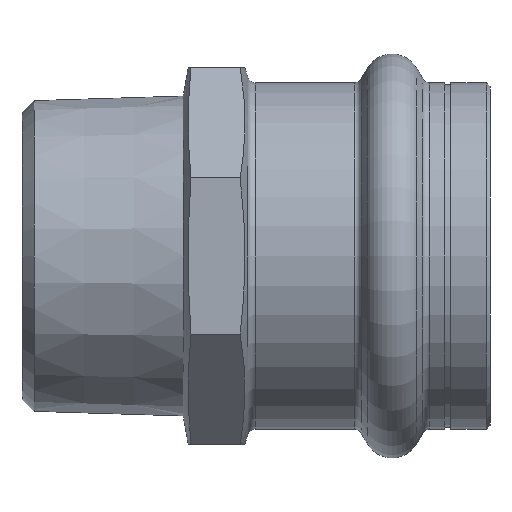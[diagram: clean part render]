
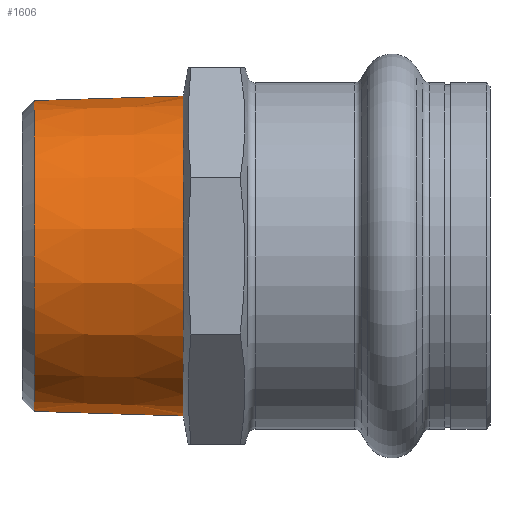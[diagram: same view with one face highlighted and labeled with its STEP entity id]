
A CAD part, left-side view. The second image highlights one B-rep face of the part: STEP entity #1606.
In plain terms, the highlighted conical face has half-angle 1.78 degrees and reference radius 21.225 mm.
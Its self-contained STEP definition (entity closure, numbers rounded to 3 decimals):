
#57 = CARTESIAN_POINT ( 'NONE',  ( 0., 40.7, 21.225 ) ) ;
#128 = VERTEX_POINT ( 'NONE', #275 ) ;
#185 = VERTEX_POINT ( 'NONE', #1535 ) ;
#247 = DIRECTION ( 'NONE',  ( 0., 0., -1. ) ) ;
#259 = DIRECTION ( 'NONE',  ( 0., -1., 0. ) ) ;
#267 = CARTESIAN_POINT ( 'NONE',  ( 0., 40.7, 0. ) ) ;
#275 = CARTESIAN_POINT ( 'NONE',  ( 0., 40.7, -21.225 ) ) ;
#331 = CIRCLE ( 'NONE', #1089, 21.225 ) ;
#354 = CONICAL_SURFACE ( 'NONE', #1248, 21.225, 0.031 ) ;
#355 = VECTOR ( 'NONE', #1424, 1000. ) ;
#474 = EDGE_CURVE ( 'NONE', #1244, #128, #534, .T. ) ;
#515 = EDGE_CURVE ( 'NONE', #1490, #1244, #642, .T. ) ;
#520 = DIRECTION ( 'NONE',  ( 0., -1., 0. ) ) ;
#534 = LINE ( 'NONE', #1027, #685 ) ;
#642 = CIRCLE ( 'NONE', #1007, 20.61 ) ;
#685 = VECTOR ( 'NONE', #1064, 1000. ) ;
#755 = LINE ( 'NONE', #57, #355 ) ;
#815 = ORIENTED_EDGE ( 'NONE', *, *, #515, .T. ) ;
#948 = EDGE_LOOP ( 'NONE', ( #1366, #815, #968, #1317 ) ) ;
#968 = ORIENTED_EDGE ( 'NONE', *, *, #474, .T. ) ;
#1007 = AXIS2_PLACEMENT_3D ( 'NONE', #1158, #1276, #1082 ) ;
#1027 = CARTESIAN_POINT ( 'NONE',  ( 0., 40.7, -21.225 ) ) ;
#1040 = EDGE_CURVE ( 'NONE', #1490, #185, #755, .T. ) ;
#1064 = DIRECTION ( 'NONE',  ( 0., -1., -0.031 ) ) ;
#1082 = DIRECTION ( 'NONE',  ( 0., 0., -1. ) ) ;
#1089 = AXIS2_PLACEMENT_3D ( 'NONE', #267, #259, #247 ) ;
#1106 = DIRECTION ( 'NONE',  ( 0., 0., -1. ) ) ;
#1158 = CARTESIAN_POINT ( 'NONE',  ( 0., 60.49, 0. ) ) ;
#1186 = FACE_OUTER_BOUND ( 'NONE', #948, .T. ) ;
#1244 = VERTEX_POINT ( 'NONE', #1338 ) ;
#1248 = AXIS2_PLACEMENT_3D ( 'NONE', #1532, #520, #1106 ) ;
#1276 = DIRECTION ( 'NONE',  ( 0., -1., 0. ) ) ;
#1317 = ORIENTED_EDGE ( 'NONE', *, *, #1384, .F. ) ;
#1338 = CARTESIAN_POINT ( 'NONE',  ( 0., 60.49, -20.61 ) ) ;
#1366 = ORIENTED_EDGE ( 'NONE', *, *, #1040, .F. ) ;
#1384 = EDGE_CURVE ( 'NONE', #185, #128, #331, .T. ) ;
#1399 = CARTESIAN_POINT ( 'NONE',  ( 0., 60.49, 20.61 ) ) ;
#1424 = DIRECTION ( 'NONE',  ( 0., -1., 0.031 ) ) ;
#1490 = VERTEX_POINT ( 'NONE', #1399 ) ;
#1532 = CARTESIAN_POINT ( 'NONE',  ( 0., 40.7, 0. ) ) ;
#1535 = CARTESIAN_POINT ( 'NONE',  ( 0., 40.7, 21.225 ) ) ;
#1606 = ADVANCED_FACE ( 'NONE', ( #1186 ), #354, .T. ) ;
